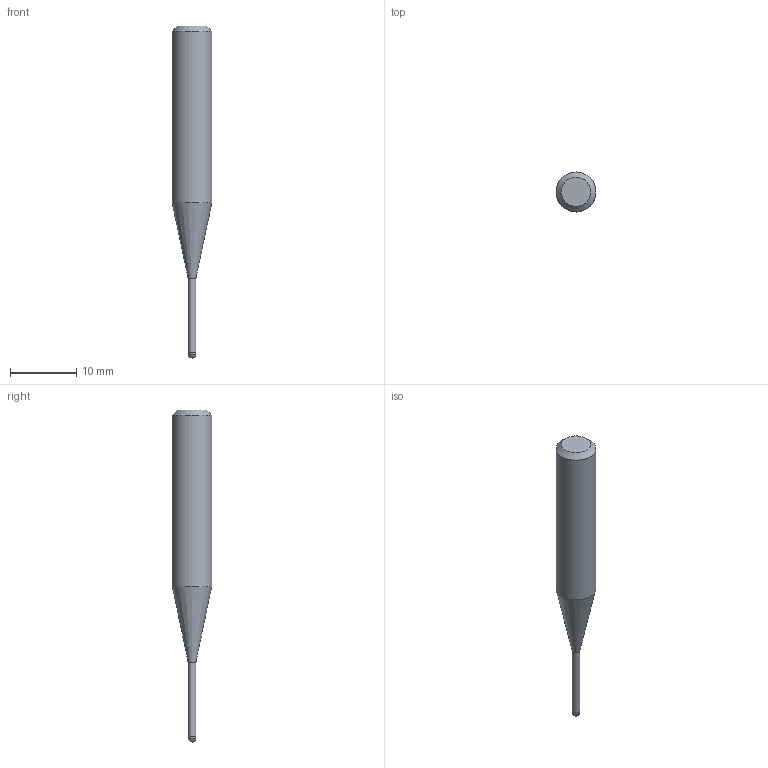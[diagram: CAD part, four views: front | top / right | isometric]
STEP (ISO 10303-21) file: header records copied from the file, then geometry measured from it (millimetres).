
FILE_DESCRIPTION((''),'2;1');
FILE_NAME('C:\Users\nsx150\AppData\Local\Temp\Mastercam 2021\3SYKECWX22\TEMP.step','2021-04-22T10:02:55',(''),(''),'STEP Write','Mastercam 2021 ... CNC Software, Inc.','');
FILE_SCHEMA(('AUTOMOTIVE_DESIGN'));
Length unit declared in the file: millimetre
Products named in the file (1): None
Bounding box: 6 x 6 x 50 mm (x, y, z)
Volume: 890.8 mm3; surface area: 696.5 mm2
Topology: 2 solids, 2 shells, 9 faces, 14 edges, 8 vertices
Faces by surface type: plane 3, cylinder 3, cone 2, sphere 1
Full cylindrical faces by diameter (mm): 1.15 x1, 1.2 x1, 6 x1
Entity records: 211 total; most frequent: DIRECTION 36, CARTESIAN_POINT 25, AXIS2_PLACEMENT_3D 18, ORIENTED_EDGE 14, EDGE_LOOP 14, STYLED_ITEM 12, ADVANCED_FACE 9, FACE_BOUND 8
